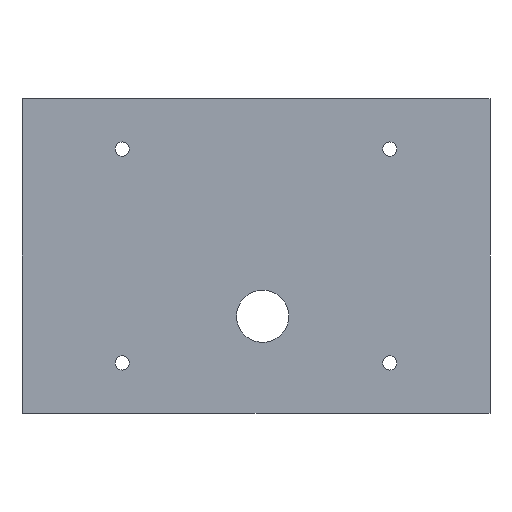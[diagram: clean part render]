
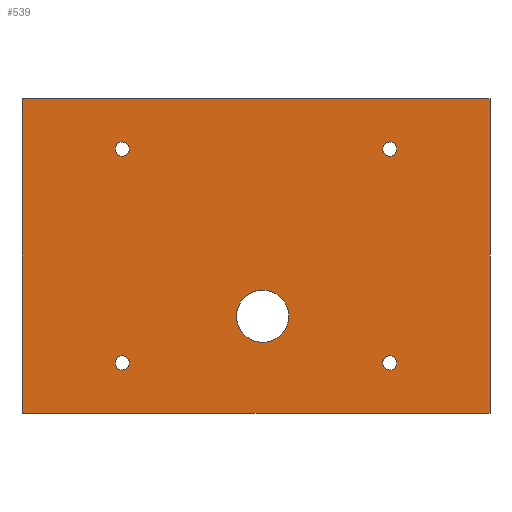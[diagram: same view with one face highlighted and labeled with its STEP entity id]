
A CAD part, front view. The second image highlights one B-rep face of the part: STEP entity #539.
In plain terms, the highlighted planar face has unit normal (0, -1, 0).
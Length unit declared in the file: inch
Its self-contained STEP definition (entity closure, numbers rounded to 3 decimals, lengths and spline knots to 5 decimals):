
#16=FACE_BOUND('',#93,.T.);
#17=FACE_BOUND('',#94,.T.);
#18=FACE_BOUND('',#95,.T.);
#19=FACE_BOUND('',#96,.T.);
#20=FACE_BOUND('',#97,.T.);
#35=PLANE('',#600);
#62=FACE_OUTER_BOUND('',#92,.T.);
#92=EDGE_LOOP('',(#446,#447,#448,#449));
#93=EDGE_LOOP('',(#450));
#94=EDGE_LOOP('',(#451));
#95=EDGE_LOOP('',(#452));
#96=EDGE_LOOP('',(#453));
#97=EDGE_LOOP('',(#454));
#138=LINE('',#857,#192);
#147=LINE('',#875,#201);
#150=LINE('',#880,#204);
#153=LINE('',#885,#207);
#192=VECTOR('',#702,39.37008);
#201=VECTOR('',#715,39.37008);
#204=VECTOR('',#720,39.37008);
#207=VECTOR('',#725,39.37008);
#225=CIRCLE('',#571,0.1565);
#226=CIRCLE('',#573,0.04245);
#228=CIRCLE('',#576,0.04245);
#230=CIRCLE('',#579,0.04245);
#232=CIRCLE('',#582,0.04245);
#245=VERTEX_POINT('',#779);
#246=VERTEX_POINT('',#783);
#248=VERTEX_POINT('',#789);
#250=VERTEX_POINT('',#795);
#252=VERTEX_POINT('',#801);
#273=VERTEX_POINT('',#854);
#274=VERTEX_POINT('',#856);
#280=VERTEX_POINT('',#870);
#281=VERTEX_POINT('',#873);
#294=EDGE_CURVE('',#245,#245,#225,.T.);
#296=EDGE_CURVE('',#246,#246,#226,.T.);
#299=EDGE_CURVE('',#248,#248,#228,.T.);
#302=EDGE_CURVE('',#250,#250,#230,.T.);
#305=EDGE_CURVE('',#252,#252,#232,.T.);
#331=EDGE_CURVE('',#273,#274,#138,.T.);
#341=EDGE_CURVE('',#281,#280,#147,.T.);
#344=EDGE_CURVE('',#274,#281,#150,.T.);
#347=EDGE_CURVE('',#280,#273,#153,.T.);
#446=ORIENTED_EDGE('',*,*,#331,.F.);
#447=ORIENTED_EDGE('',*,*,#347,.F.);
#448=ORIENTED_EDGE('',*,*,#341,.F.);
#449=ORIENTED_EDGE('',*,*,#344,.F.);
#450=ORIENTED_EDGE('',*,*,#294,.T.);
#451=ORIENTED_EDGE('',*,*,#296,.T.);
#452=ORIENTED_EDGE('',*,*,#299,.T.);
#453=ORIENTED_EDGE('',*,*,#302,.T.);
#454=ORIENTED_EDGE('',*,*,#305,.T.);
#539=ADVANCED_FACE('',(#62,#16,#17,#18,#19,#20),#35,.F.);
#571=AXIS2_PLACEMENT_3D('',#780,#629,#630);
#573=AXIS2_PLACEMENT_3D('',#784,#634,#635);
#576=AXIS2_PLACEMENT_3D('',#790,#641,#642);
#579=AXIS2_PLACEMENT_3D('',#796,#648,#649);
#582=AXIS2_PLACEMENT_3D('',#802,#655,#656);
#600=AXIS2_PLACEMENT_3D('',#886,#726,#727);
#629=DIRECTION('center_axis',(0.,1.,0.));
#630=DIRECTION('ref_axis',(0.,0.,1.));
#634=DIRECTION('center_axis',(0.,1.,0.));
#635=DIRECTION('ref_axis',(0.,0.,1.));
#641=DIRECTION('center_axis',(0.,1.,0.));
#642=DIRECTION('ref_axis',(0.,0.,
1.));
#648=DIRECTION('center_axis',(0.,1.,0.));
#649=DIRECTION('ref_axis',(0.,0.,1.));
#655=DIRECTION('center_axis',(0.,1.,0.));
#656=DIRECTION('ref_axis',(0.,0.,
1.));
#702=DIRECTION('',(0.,0.,-1.));
#715=DIRECTION('',(0.,0.,1.));
#720=DIRECTION('',(-1.,0.,0.));
#725=DIRECTION('',(1.,0.,0.));
#726=DIRECTION('center_axis',(0.,1.,0.));
#727=DIRECTION('ref_axis',(0.,0.,1.));
#779=CARTESIAN_POINT('',(0.04,0.,-0.5165));
#780=CARTESIAN_POINT('Origin',(0.04,0.,
-0.36));
#783=CARTESIAN_POINT('',(0.8,0.,-0.68245));
#784=CARTESIAN_POINT('Origin',(0.8,0.,-0.64));
#789=CARTESIAN_POINT('',(0.8,0.,0.59755));
#790=CARTESIAN_POINT('Origin',(0.8,0.,0.64));
#795=CARTESIAN_POINT('',(-0.8,0.,0.59755));
#796=CARTESIAN_POINT('Origin',(-0.8,0.,0.64));
#801=CARTESIAN_POINT('',(-0.8,0.,-0.68245));
#802=CARTESIAN_POINT('Origin',(-0.8,0.,-0.64));
#854=CARTESIAN_POINT('',(1.4,0.,0.94));
#856=CARTESIAN_POINT('',(1.4,0.,-0.94));
#857=CARTESIAN_POINT('',(1.4,0.,-0.94));
#870=CARTESIAN_POINT('',(-1.4,0.,0.94));
#873=CARTESIAN_POINT('',(-1.4,0.,-0.94));
#875=CARTESIAN_POINT('',(-1.4,0.,-0.94));
#880=CARTESIAN_POINT('',(-1.4,0.,-0.94));
#885=CARTESIAN_POINT('',(-1.4,0.,0.94));
#886=CARTESIAN_POINT('Origin',(0.,0.,0.));
